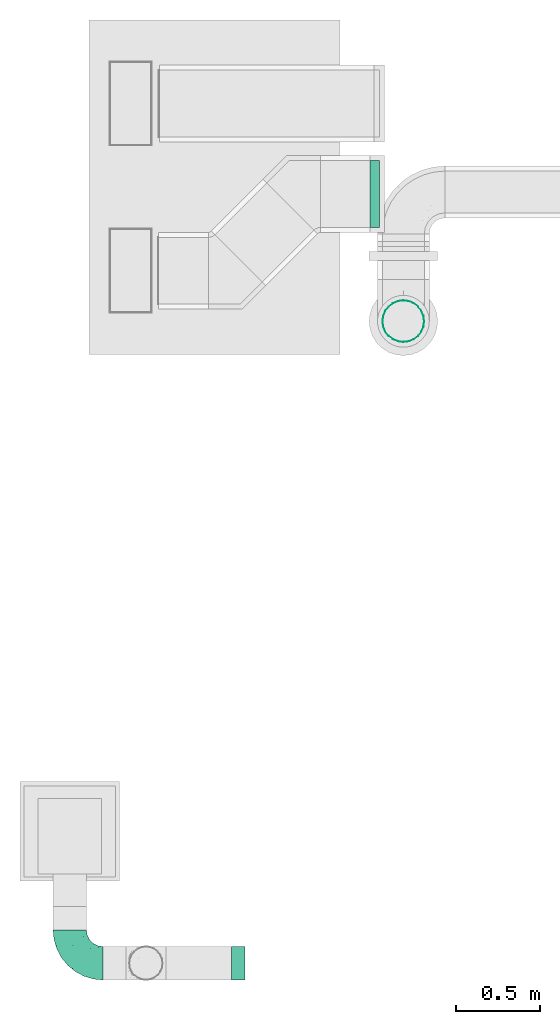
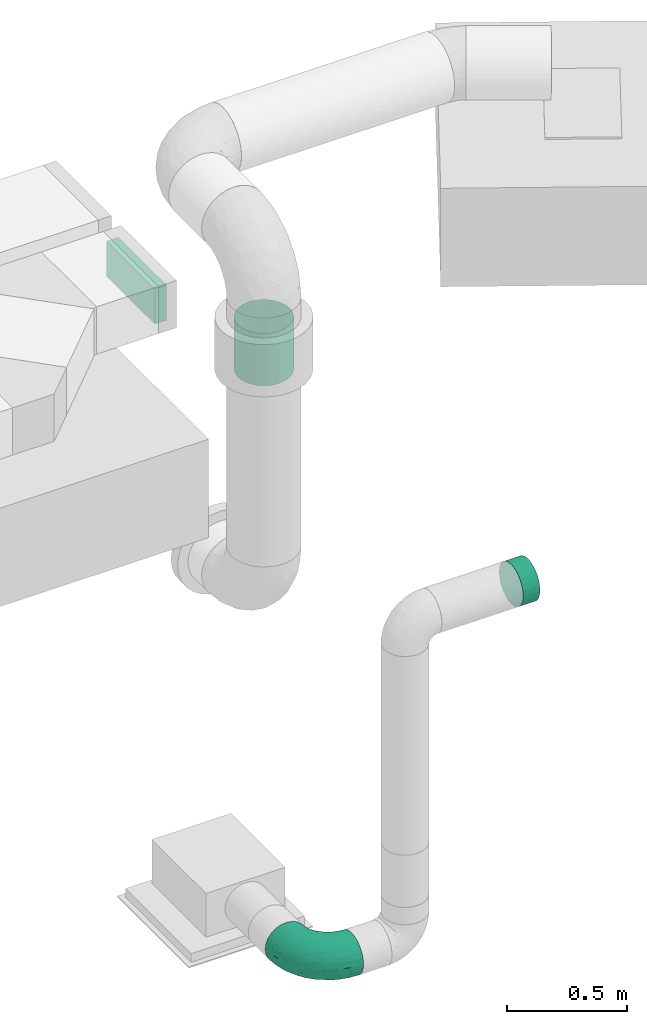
# One storey, part 7 of 9: 3 flow fittings, 1 flow controller.
"""IFC2X3 building model written with IfcOpenShell, lengths in millimetres."""

from ifc_helpers import new_model, entity, si_unit, converted_unit, derived_unit, direction, frame, origin_with_axes, place, context, subcontext, project, spatial, open_shell, surface_model, source, transform, mapped, type_object, element, save


model = new_model("IFC2X3")

# Units and contexts
model_context = context("Model", 3, precision=0.01, world=frame((0.0, 4.29681676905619e-09, 0.0)), true_north=direction((4.01073788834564e-13, 1.0)))
plan_context = context("Plan", 3, precision=0.01, world=frame((0.0, 4.29681676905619e-09, 0.0)), true_north=direction((4.01073788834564e-13, 1.0)))
body_context = subcontext(model_context, "Body", "Model", "MODEL_VIEW")
ifc_project = project(units=[converted_unit("PLANEANGLEUNIT", "DEGREE", entity("IfcPositiveLengthMeasure", 0.0174532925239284), si_unit("PLANEANGLEUNIT", "RADIAN"), dimensions=[0, 0, 0, 0, 0, 0, 0]), si_unit("AREAUNIT", "SQUARE_METRE"), si_unit("LENGTHUNIT", "METRE", prefix="MILLI"), si_unit("MASSUNIT", "GRAM", prefix="KILO"), si_unit("POWERUNIT", "WATT"), si_unit("PRESSUREUNIT", "PASCAL"), si_unit("FORCEUNIT", "NEWTON", prefix="KILO"), si_unit("ELECTRICVOLTAGEUNIT", "VOLT"), si_unit("ELECTRICCURRENTUNIT", "AMPERE"), si_unit("THERMODYNAMICTEMPERATUREUNIT", "DEGREE_CELSIUS"), si_unit("TIMEUNIT", "SECOND"), si_unit("VOLUMEUNIT", "CUBIC_METRE"), derived_unit("LINEARVELOCITYUNIT", [(si_unit("LENGTHUNIT", "METRE"), 1), (si_unit("TIMEUNIT", "SECOND"), -1)]), derived_unit("VOLUMETRICFLOWRATEUNIT", [(si_unit("VOLUMEUNIT", "CUBIC_METRE"), 1), (si_unit("TIMEUNIT", "SECOND"), -1)]), derived_unit("THERMALTRANSMITTANCEUNIT", [(si_unit("POWERUNIT", "WATT"), 1), (si_unit("THERMODYNAMICTEMPERATUREUNIT", "KELVIN"), -1), (si_unit("AREAUNIT", "SQUARE_METRE"), -1)]), derived_unit("SOUNDPRESSUREUNIT", [(si_unit("PRESSUREUNIT", "PASCAL"), 1)])], contexts=[model_context, plan_context])

# Site, building, storey
site_placement = place(None, frame((0.0, -4.29681676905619e-09, 0.0), z_axis=(0.0, 0.0, 1.0), x_axis=(1.0, 0.0, 0.0)))
site = spatial("IfcSite", under=ifc_project, at=site_placement, CompositionType="ELEMENT")
building_placement = place(site_placement, frame((0.0, 4.29681676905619e-09, 0.0), z_axis=(0.0, 0.0, 1.0), x_axis=(1.0, 0.0, 0.0)))
building = spatial("IfcBuilding", under=site, at=building_placement, Name="mc-building", CompositionType="ELEMENT")
storey_placement = place(building_placement, frame((0.0, 0.0, 210200.0), z_axis=(0.0, 0.0, 1.0), x_axis=(1.0, 0.0, 0.0)))
storey = spatial("IfcBuildingStorey", under=building, at=storey_placement, Name="Nivå F -0,7m", CompositionType="ELEMENT", Elevation=210200.0)

# Flow controller
damper_type = type_object("IfcDamperType", Name="IGNIS-C-EI30-250", PredefinedType="FIREDAMPER")
shared_shape_1 = source(origin_with_axes(), body_context, "Body", "SurfaceModel", [
    surface_model("IfcShellBasedSurfaceModel", [(132.5, 62.25, -107.82016), (132.5, 88.0348, -88.0348), (132.5, 62.15, -107.64695), (132.5, 32.17121, -120.06458), (132.5, 0.0, -124.3), (132.5, 32.22297, -120.25777), (132.5, 0.0, -124.5), (132.5, 87.89337, -87.89337), (132.5, 120.25777, -32.22297), (132.5, 124.3, 0.0), (132.5, 120.06458, -32.17121), (132.5, 124.5, 0.0), (132.5, 107.82016, -62.25), (132.5, 107.64695, -62.15), (132.5, -32.17121, -120.06458), (132.5, -32.22297, -120.25777), (132.5, -62.15, -107.64695), (132.5, -88.0348, -88.0348), (132.5, -62.25, -107.82016), (132.5, -87.89337, -87.89337), (132.5, -107.64695, -62.15), (132.5, -107.82016, -62.25), (132.5, -120.06458, -32.17121), (132.5, -120.25777, -32.22297), (132.5, -124.3, 0.0), (132.5, -124.5, 0.0), (132.5, 120.25777, 32.22297), (132.5, 120.06458, 32.17121), (132.5, 107.64695, 62.15), (132.5, 107.82016, 62.25), (132.5, 87.89337, 87.89337), (132.5, 88.0348, 88.0348), (132.5, 62.25, 107.82016), (132.5, 62.15, 107.64695), (132.5, 32.17121, 120.06458), (132.5, 32.22297, 120.25777), (132.5, 0.0, 124.3), (132.5, 0.0, 124.5), (132.5, -107.82016, 62.25), (132.5, -107.64695, 62.15), (132.5, -88.0348, 88.0348), (132.5, -87.89337, 87.89337), (132.5, -120.25777, 32.22297), (132.5, -120.06458, 32.17121), (132.5, -32.17121, 120.06458), (132.5, -32.22297, 120.25777), (132.5, -62.15, 107.64695), (132.5, -62.25, 107.82016), (-132.5, 62.25, 107.82016), (-132.5, 88.0348, 88.0348), (-132.5, 62.15, 107.64695), (-132.5, 32.17121, 120.06458), (-132.5, 0.0, 124.3), (-132.5, 32.22297, 120.25777), (-132.5, 0.0, 124.5), (-132.5, 87.89337, 87.89337), (-132.5, 120.25777, 32.22297), (-132.5, 124.3, 0.0), (-132.5, 120.06458, 32.17121), (-132.5, 124.5, 0.0), (-132.5, 107.82016, 62.25), (-132.5, 107.64695, 62.15), (-132.5, -32.17121, 120.06458), (-132.5, -32.22297, 120.25777), (-132.5, -62.15, 107.64695), (-132.5, -88.0348, 88.0348), (-132.5, -62.25, 107.82016), (-132.5, -87.89337, 87.89337), (-132.5, -107.64695, 62.15), (-132.5, -107.82016, 62.25), (-132.5, -120.06458, 32.17121), (-132.5, -120.25777, 32.22297), (-132.5, -124.3, 0.0), (-132.5, -124.5, 0.0), (-132.5, 120.25777, -32.22297), (-132.5, 120.06458, -32.17121), (-132.5, 107.64695, -62.15), (-132.5, 107.82016, -62.25), (-132.5, 87.89337, -87.89337), (-132.5, 88.0348, -88.0348), (-132.5, 62.25, -107.82016), (-132.5, 62.15, -107.64695), (-132.5, 32.17121, -120.06458), (-132.5, 32.22297, -120.25777), (-132.5, 0.0, -124.3), (-132.5, 0.0, -124.5), (-132.5, -107.82016, -62.25), (-132.5, -107.64695, -62.15), (-132.5, -88.0348, -88.0348), (-132.5, -87.89337, -87.89337), (-132.5, -120.25777, -32.22297), (-132.5, -120.06458, -32.17121), (-132.5, -32.17121, -120.06458), (-132.5, -32.22297, -120.25777), (-132.5, -62.15, -107.64695), (-132.5, -62.25, -107.82016)], [open_shell([[[0, 1, 2]], [[0, 2, 3]], [[4, 5, 3]], [[5, 4, 6]], [[3, 5, 0]], [[2, 1, 7]], [[8, 9, 10]], [[9, 8, 11]], [[8, 10, 12]], [[7, 12, 13]], [[12, 7, 1]], [[13, 12, 10]], [[6, 14, 15]], [[15, 14, 16]], [[17, 18, 19]], [[16, 18, 15]], [[16, 19, 18]], [[6, 4, 14]], [[20, 21, 17]], [[21, 20, 22]], [[20, 17, 19]], [[23, 22, 24]], [[22, 23, 21]], [[23, 24, 25]], [[11, 26, 27]], [[27, 26, 28]], [[28, 29, 30]], [[29, 28, 26]], [[30, 29, 31]], [[31, 32, 33]], [[33, 32, 34]], [[34, 35, 36]], [[35, 34, 32]], [[36, 35, 37]], [[33, 30, 31]], [[38, 39, 40]], [[40, 39, 41]], [[39, 38, 42]], [[25, 43, 42]], [[42, 43, 39]], [[25, 24, 43]], [[44, 37, 45]], [[44, 45, 46]], [[41, 47, 40]], [[41, 46, 47]], [[47, 46, 45]], [[36, 37, 44]], [[27, 9, 11]], [[48, 49, 50]], [[48, 50, 51]], [[52, 53, 51]], [[53, 52, 54]], [[51, 53, 48]], [[50, 49, 55]], [[56, 57, 58]], [[57, 56, 59]], [[56, 58, 60]], [[55, 60, 61]], [[60, 55, 49]], [[61, 60, 58]], [[54, 62, 63]], [[63, 62, 64]], [[65, 66, 67]], [[64, 66, 63]], [[64, 67, 66]], [[54, 52, 62]], [[68, 69, 65]], [[69, 68, 70]], [[68, 65, 67]], [[71, 70, 72]], [[70, 71, 69]], [[71, 72, 73]], [[59, 74, 75]], [[75, 74, 76]], [[76, 77, 78]], [[77, 76, 74]], [[78, 77, 79]], [[79, 80, 81]], [[81, 80, 82]], [[82, 83, 84]], [[83, 82, 80]], [[84, 83, 85]], [[81, 78, 79]], [[86, 87, 88]], [[88, 87, 89]], [[87, 86, 90]], [[73, 91, 90]], [[90, 91, 87]], [[73, 72, 91]], [[92, 85, 93]], [[92, 93, 94]], [[89, 95, 88]], [[89, 94, 95]], [[95, 94, 93]], [[84, 85, 92]], [[75, 57, 59]], [[23, 90, 86]], [[88, 21, 86]], [[18, 95, 93]], [[88, 95, 17]], [[15, 93, 85]], [[90, 25, 73]], [[90, 23, 25]], [[86, 21, 23]], [[88, 17, 21]], [[18, 17, 95]], [[93, 15, 18]], [[85, 6, 15]], [[5, 83, 80]], [[79, 0, 80]], [[12, 77, 74]], [[79, 77, 1]], [[8, 74, 59]], [[83, 5, 6]], [[80, 0, 5]], [[79, 1, 0]], [[77, 12, 1]], [[8, 12, 74]], [[59, 11, 8]], [[83, 6, 85]], [[59, 56, 26]], [[53, 32, 48]], [[48, 31, 49]], [[35, 53, 54]], [[59, 26, 11]], [[26, 56, 60]], [[26, 60, 29]], [[60, 49, 29]], [[49, 31, 29]], [[32, 31, 48]], [[53, 35, 32]], [[54, 37, 35]], [[45, 63, 66]], [[65, 47, 66]], [[38, 69, 71]], [[65, 69, 40]], [[42, 71, 73]], [[63, 45, 37]], [[66, 47, 45]], [[65, 40, 47]], [[69, 38, 40]], [[42, 38, 71]], [[73, 25, 42]], [[63, 37, 54]], [[87, 91, 22]], [[87, 20, 89]], [[92, 94, 16]], [[19, 94, 89]], [[84, 92, 14]], [[72, 24, 91]], [[24, 22, 91]], [[22, 20, 87]], [[20, 19, 89]], [[94, 19, 16]], [[16, 14, 92]], [[14, 4, 84]], [[81, 82, 3]], [[81, 2, 78]], [[75, 76, 13]], [[7, 76, 78]], [[57, 75, 10]], [[4, 3, 82]], [[3, 2, 81]], [[2, 7, 78]], [[7, 13, 76]], [[75, 13, 10]], [[10, 9, 57]], [[84, 4, 82]], [[27, 58, 57]], [[50, 33, 51]], [[55, 30, 50]], [[52, 51, 34]], [[9, 27, 57]], [[61, 58, 27]], [[28, 61, 27]], [[28, 55, 61]], [[28, 30, 55]], [[50, 30, 33]], [[33, 34, 51]], [[34, 36, 52]], [[64, 62, 44]], [[64, 46, 67]], [[70, 68, 39]], [[41, 68, 67]], [[72, 70, 43]], [[36, 44, 62]], [[44, 46, 64]], [[46, 41, 67]], [[41, 39, 68]], [[70, 39, 43]], [[43, 24, 72]], [[52, 36, 62]]])]),
])
flow_controller_placement = place(storey_placement, frame((524180.93348, 455661.93875, 3436.87533000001), z_axis=(0.0, 1.0, 0.0), x_axis=(0.0, 0.0, -1.0)))
element("IfcFlowController", 1, at=flow_controller_placement, inside=storey, type_object=damper_type, Name="IGNIS-C-EI30-250", context=body_context, shape_type="MappedRepresentation", body=[
    mapped(shared_shape_1, transform((0.0, 0.0, 0.0), scale=1.0)),
])

# Flow fittings
duct_fitting_type_1 = type_object("IfcDuctFittingType", Name="magicirc_elbow_full_radius_001", PredefinedType="BEND")
shared_shape_2 = source(origin_with_axes(), body_context, "Body", "SurfaceModel", [
    surface_model("IfcShellBasedSurfaceModel", [(-200.0, 25.8819, -96.59259), (-200.0, 0.0, -100.0), (-200.0, 96.59259, -25.8819), (-200.0, 50.0, -86.60254), (-200.0, 70.71068, -70.71068), (-200.0, 86.60254, -50.0), (-200.0, 100.0, 0.0), (-200.0, -70.71068, -70.71068), (-200.0, -50.0, -86.60254), (-200.0, -25.8819, -96.59259), (-200.0, -86.60254, -50.0), (-200.0, -96.59259, -25.8819), (-200.0, -96.59259, 25.8819), (-200.0, -100.0, 0.0), (-200.0, 86.60254, 50.0), (-200.0, 96.59259, 25.8819), (-200.0, -50.0, 86.60254), (-200.0, 25.8819, 96.59259), (-200.0, 50.0, 86.60254), (-200.0, 70.71068, 70.71068), (-200.0, -86.60254, 50.0), (-200.0, -70.71068, 70.71068), (-200.0, -25.8819, 96.59259), (-200.0, 0.0, 100.0), (-25.8819, 200.0, -96.59259), (96.59259, 200.0, 25.8819), (0.0, 200.0, -100.0), (-70.71068, 200.0, -70.71068), (-50.0, 200.0, -86.60254), (-86.60254, 200.0, -50.0), (70.71068, 200.0, -70.71068), (25.8819, 200.0, -96.59259), (50.0, 200.0, -86.60254), (96.59259, 200.0, -25.8819), (86.60254, 200.0, -50.0), (100.0, 200.0, 0.0), (-96.59259, 200.0, -25.8819), (-100.0, 200.0, 0.0), (-96.59259, 200.0, 25.8819), (-86.60254, 200.0, 50.0), (-50.0, 200.0, 86.60254), (-25.8819, 200.0, 96.59259), (-70.71068, 200.0, 70.71068), (50.0, 200.0, 86.60254), (70.71068, 200.0, 70.71068), (86.60254, 200.0, 50.0), (25.8819, 200.0, 96.59259), (0.0, 200.0, 100.0), (-170.28345, -80.453, 57.20341), (-151.30505, -62.14272, 74.57098), (-141.47291, -94.23558, 0.0), (-152.48501, -91.13434, 31.26682), (-175.16033, -97.5535, 0.0), (49.44088, 33.32893, 0.0), (56.65771, 47.69157, 17.5513), (30.78646, 10.59845, 0.0), (-115.72747, -62.79147, 65.02361), (-110.24866, -47.46346, 77.46704), (-131.78251, -77.03572, 52.17296), (-155.84565, 81.73243, 67.52503), (-165.38682, 59.81194, 83.11685), (-153.53621, -15.46231, 97.89391), (-99.34826, -9.37473, 94.63603), (-109.04028, 19.17637, 99.9709), (-11.41001, 147.58509, 99.90915), (-66.65717, -62.98288, 31.65851), (-19.65477, -37.28433, 19.69829), (-42.80044, -46.52394, 38.2888), (-76.76667, -58.58513, 50.26593), (-107.75087, -80.71677, 29.70656), (-170.73585, -40.65955, 90.5511), (-172.81551, 101.70087, 19.84455), (-146.92494, 108.70969, 32.98808), (-141.22148, 119.0983, 0.0), (-63.14521, 144.11081, 85.31109), (-80.51529, 161.84448, 66.62709), (-89.41257, 123.59035, 75.49114), (-59.28706, 175.69502, 82.02298), (-159.40173, 10.55746, 99.80411), (77.16386, 85.19497, 0.0), (62.56216, 67.38452, 33.69402), (-101.70087, 172.81551, 19.84455), (-93.96462, 171.01, 43.43771), (-171.01, 93.96462, 43.43771), (-151.20277, 37.27353, 95.35782), (-100.76094, 141.8163, 52.73949), (-123.065, 123.065, 41.02461), (-115.71118, 115.71117, 58.92154), (-108.70969, 146.92494, 32.98808), (-169.09831, 104.89435, 0.0), (-126.3807, 68.32629, 87.09158), (-3.53309, 67.51081, 92.91692), (-29.40722, 29.40721, 91.09367), (0.78973, 37.96478, 81.45071), (-60.00062, -0.36077, 89.58959), (-67.88209, 21.58789, 97.54896), (62.32031, 154.13138, 74.86163), (-141.8163, 100.76094, 52.73949), (91.13434, 152.48501, 31.26682), (80.453, 170.28345, 57.20341), (-18.49849, -12.30744, 60.90175), (8.80323, 19.6267, 65.08263), (-25.42255, 3.46809, 77.76258), (-74.03921, 114.7783, 87.77152), (-87.24231, 87.48345, 91.33971), (-52.29396, 97.96814, 97.88047), (97.5535, 175.16033, 0.0), (15.66986, 158.34417, 98.04921), (39.67143, 143.40046, 88.65468), (-104.89435, 169.09831, 0.0), (-119.0983, 141.22148, 0.0), (-79.31604, 55.69606, 99.29154), (50.31225, 117.34231, 77.16335), (77.03572, 131.78251, 52.17296), (-113.91527, 94.9934, 76.65605), (64.93177, 92.97178, 51.47516), (47.72556, 81.69016, 66.67609), (40.01044, 43.97718, 50.57869), (-17.45546, -26.87288, 41.03287), (-127.86769, 127.86769, 19.95139), (-59.26195, -63.30237, 0.0), (-33.32893, -49.44088, 0.0), (-15.13235, 108.44666, 99.8016), (9.03102, 110.97634, 96.23014), (-35.35458, 66.6809, 99.29493), (-36.40308, 160.4143, 94.8486), (-32.26105, 126.83648, 98.54453), (5.63455, -13.55537, 26.35365), (8.74012, 0.17058, 45.65263), (46.65777, 40.2329, 34.44568), (80.66195, 107.48302, 29.60457), (85.69972, 113.33393, 0.0), (28.17336, 90.6004, 84.77214), (-103.20436, 61.65595, 95.02282), (-132.43349, -38.40548, 87.83865), (-113.33393, -85.69972, 0.0), (-87.1495, -28.94235, 83.35483), (-47.7214, -39.47514, 54.58142), (-52.3084, 125.73797, 93.79051), (25.86889, 52.68176, 71.74074), (63.30237, 59.26195, 0.0), (94.23558, 141.47291, 0.0), (29.54521, 14.24018, 30.32032), (-85.19497, -77.16386, 0.0), (-50.98503, -24.63183, 71.83876), (-81.69017, -47.72556, 66.67609), (-10.59845, -30.78646, 0.0), (12.13203, -12.13203, 0.0), (-160.4143, 36.40307, -94.8486), (-126.83648, 32.26105, -98.54453), (-147.58509, 11.41001, -99.90915), (-59.81194, 165.3868, -83.11686), (-158.34417, -15.66986, -98.0492), (-110.97634, -9.03102, -96.23014), (12.30745, 18.4985, -60.90175), (-19.62669, -8.80321, -65.08265), (-3.46809, 25.42255, -77.76258), (-114.7783, 74.03921, -87.77153), (-87.48346, 87.2423, -91.33971), (-97.96814, 52.29396, -97.88047), (-172.81551, 101.70087, -19.84455), (13.55537, -5.63454, -26.35364), (-0.17055, -8.74011, -45.6526), (26.87289, 17.45547, -41.03286), (-146.92494, 108.70969, -32.98808), (-47.69157, -56.65771, -17.5513), (-123.06501, 123.065, -41.02461), (-127.86769, 127.86769, -19.95139), (-108.70969, 146.92494, -32.98808), (-175.69502, 59.28706, -82.02298), (-161.84448, 80.51529, -66.62709), (-144.11081, 63.14521, -85.31109), (62.98288, 66.65718, -31.65851), (-81.73243, 155.84565, -67.52503), (-141.8163, 100.76093, -52.73949), (-171.01, 93.96462, -43.43771), (-55.69606, 79.31604, -99.29154), (-66.68089, 35.35458, -99.29493), (-152.48501, -91.13434, -31.26682), (-170.28345, -80.45301, -57.20341), (-92.97178, -64.93177, -51.47516), (-81.69017, -47.72556, -66.67608), (-43.97716, -40.01043, -50.57869), (-10.55746, 159.40173, -99.80411), (15.46231, 153.53621, -97.89391), (-154.13138, -62.32031, -74.86163), (-143.40046, -39.67143, -88.65468), (-37.27353, 151.20276, -95.35782), (-107.48302, -80.66195, -29.60457), (0.36078, 60.00061, -89.58959), (-29.40721, 29.40721, -91.09366), (-21.58789, 67.88208, -97.54896), (-100.76094, 141.8163, -52.73949), (-93.96462, 171.01, -43.43771), (-101.70087, 172.81551, -19.84455), (-19.17637, 109.04027, -99.9709), (-123.59035, 89.41257, -75.49114), (62.14272, 151.30505, -74.57098), (40.65955, 170.73585, -90.5511), (46.52395, 42.80044, -38.28881), (37.28435, 19.6548, -19.69829), (-68.3263, 126.38069, -87.09158), (-67.51081, 3.53309, -92.91692), (-37.96476, -0.78971, -81.45071), (58.58512, 76.76664, -50.26592), (-67.38452, -62.56216, -33.69402), (80.45301, 170.28345, -57.20341), (80.71677, 107.75087, -29.70656), (38.40548, 132.43348, -87.83865), (62.79147, 115.72747, -65.02361), (47.46347, 110.24866, -77.46703), (91.13434, 152.48501, -31.26682), (-40.2329, -46.65777, -34.44568), (-90.60041, -28.17337, -84.77214), (77.03572, 131.78251, -52.17296), (9.37473, 99.34825, -94.63603), (-117.34231, -50.31225, -77.16335), (-131.78251, -77.03572, -52.17296), (-94.99341, 113.91526, -76.65605), (-108.44666, 15.13234, -99.8016), (-61.65596, 103.20434, -95.02282), (28.94235, 87.1495, -83.35483), (39.47513, 47.72139, -54.58143), (-125.73797, 52.30839, -93.79051), (-52.68177, -25.86889, -71.74075), (-115.71118, 115.71117, -58.92154), (-14.24018, -29.54521, -30.32033), (24.63182, 50.98504, -71.83876), (47.72556, 81.69017, -66.67609)], [open_shell([[[0, 1, 2]], [[3, 0, 4]], [[2, 5, 4]], [[0, 2, 4]], [[6, 1, 7]], [[8, 7, 9]], [[7, 1, 9]], [[10, 11, 7]], [[12, 11, 13]], [[12, 7, 11]], [[2, 1, 6]], [[14, 15, 6]], [[16, 14, 7]], [[14, 17, 18]], [[19, 14, 18]], [[17, 14, 16]], [[20, 21, 12]], [[16, 12, 21]], [[16, 22, 17]], [[16, 7, 12]], [[17, 22, 23]], [[14, 6, 7]], [[24, 25, 26]], [[27, 24, 28]], [[25, 27, 29]], [[24, 27, 25]], [[30, 26, 25]], [[31, 30, 32]], [[31, 26, 30]], [[30, 33, 34]], [[35, 33, 25]], [[33, 30, 25]], [[25, 29, 36]], [[37, 38, 39]], [[25, 37, 39]], [[40, 41, 39]], [[40, 39, 42]], [[43, 39, 41]], [[25, 44, 45]], [[44, 25, 43]], [[41, 46, 43]], [[43, 25, 39]], [[47, 46, 41]], [[37, 25, 36]], [[21, 48, 49]], [[50, 51, 52]], [[53, 54, 55]], [[56, 57, 49]], [[48, 51, 58]], [[59, 19, 60]], [[61, 62, 63]], [[47, 41, 64]], [[65, 66, 67]], [[68, 69, 65]], [[16, 21, 49]], [[19, 18, 60]], [[16, 70, 22]], [[71, 72, 73]], [[74, 75, 76]], [[77, 40, 42]], [[19, 59, 14]], [[23, 78, 17]], [[54, 79, 80]], [[38, 81, 82]], [[70, 61, 22]], [[21, 20, 48]], [[83, 15, 14]], [[83, 72, 71]], [[84, 18, 17]], [[6, 15, 71]], [[85, 86, 87]], [[85, 82, 88]], [[71, 73, 89]], [[22, 61, 23]], [[90, 60, 84]], [[91, 92, 93]], [[65, 67, 68]], [[94, 92, 95]], [[43, 96, 44]], [[97, 72, 83]], [[25, 45, 98]], [[44, 99, 45]], [[75, 42, 39]], [[100, 101, 102]], [[103, 104, 105]], [[98, 106, 25]], [[46, 107, 108]], [[108, 96, 43]], [[109, 110, 81]], [[104, 111, 105]], [[112, 113, 96]], [[98, 45, 99]], [[114, 59, 90]], [[108, 43, 46]], [[115, 116, 117]], [[88, 81, 110]], [[67, 66, 118]], [[110, 73, 119]], [[109, 81, 37]], [[95, 111, 63]], [[120, 121, 65]], [[86, 119, 72]], [[122, 123, 64]], [[111, 124, 105]], [[75, 74, 77]], [[64, 125, 126]], [[127, 128, 118]], [[80, 129, 54]], [[41, 40, 125]], [[125, 64, 41]], [[123, 107, 64]], [[98, 130, 131]], [[132, 108, 123]], [[47, 107, 46]], [[78, 23, 61]], [[20, 12, 51]], [[133, 63, 111]], [[130, 98, 113]], [[115, 117, 80]], [[82, 39, 38]], [[75, 85, 76]], [[62, 61, 134]], [[78, 63, 84]], [[56, 49, 58]], [[70, 49, 134]], [[51, 12, 52]], [[51, 135, 69]], [[115, 130, 113]], [[82, 81, 88]], [[62, 136, 94]], [[62, 94, 95]], [[67, 118, 137]], [[69, 58, 51]], [[77, 125, 40]], [[126, 138, 105]], [[112, 96, 108]], [[99, 96, 113]], [[117, 116, 139]], [[66, 127, 118]], [[92, 102, 93]], [[92, 94, 102]], [[63, 78, 61]], [[84, 17, 78]], [[64, 107, 47]], [[108, 107, 123]], [[84, 60, 18]], [[59, 60, 90]], [[87, 114, 76]], [[104, 103, 114]], [[114, 87, 97]], [[104, 114, 90]], [[63, 133, 84]], [[138, 103, 105]], [[90, 133, 104]], [[63, 62, 95]], [[91, 124, 92]], [[122, 64, 126]], [[92, 124, 95]], [[111, 95, 124]], [[140, 79, 54]], [[131, 141, 98]], [[88, 86, 85]], [[75, 39, 82]], [[76, 85, 87]], [[75, 82, 85]], [[14, 59, 83]], [[97, 87, 86]], [[83, 59, 97]], [[114, 97, 59]], [[117, 142, 129]], [[65, 69, 143]], [[136, 62, 134]], [[102, 101, 93]], [[144, 94, 136]], [[137, 100, 144]], [[57, 136, 134]], [[136, 145, 144]], [[101, 139, 93]], [[91, 132, 123]], [[93, 139, 132]], [[91, 123, 122]], [[93, 132, 91]], [[132, 116, 112]], [[144, 100, 102]], [[128, 100, 118]], [[144, 102, 94]], [[137, 144, 145]], [[137, 145, 68]], [[100, 137, 118]], [[56, 68, 145]], [[69, 68, 58]], [[101, 128, 117]], [[132, 139, 116]], [[101, 117, 139]], [[129, 80, 117]], [[68, 67, 137]], [[65, 143, 120]], [[127, 146, 147]], [[55, 127, 147]], [[66, 146, 127]], [[128, 127, 142]], [[117, 128, 142]], [[100, 128, 101]], [[138, 125, 74]], [[122, 105, 124]], [[105, 122, 126]], [[91, 122, 124]], [[125, 138, 126]], [[138, 74, 103]], [[74, 76, 103]], [[114, 103, 76]], [[132, 112, 108]], [[112, 116, 115]], [[12, 13, 52]], [[106, 98, 141]], [[106, 35, 25]], [[37, 81, 38]], [[88, 110, 119]], [[97, 86, 72]], [[72, 119, 73]], [[88, 119, 86]], [[6, 71, 89]], [[83, 71, 15]], [[75, 77, 42]], [[125, 77, 74]], [[49, 70, 16]], [[61, 70, 134]], [[51, 48, 20]], [[49, 48, 58]], [[96, 99, 44]], [[98, 99, 113]], [[80, 79, 130]], [[130, 115, 80]], [[112, 115, 113]], [[68, 56, 58]], [[57, 56, 145]], [[136, 57, 145]], [[49, 57, 134]], [[65, 121, 66]], [[127, 55, 142]], [[84, 133, 90]], [[111, 104, 133]], [[130, 79, 131]], [[135, 51, 50]], [[135, 143, 69]], [[142, 55, 54]], [[142, 54, 129]], [[140, 54, 53]], [[66, 121, 146]], [[148, 149, 150]], [[28, 151, 27]], [[152, 150, 153]], [[154, 155, 156]], [[150, 0, 148]], [[157, 158, 159]], [[89, 160, 6]], [[161, 162, 163]], [[164, 160, 73]], [[121, 165, 146]], [[166, 167, 168]], [[169, 170, 171]], [[140, 53, 172]], [[27, 173, 29]], [[174, 175, 164]], [[176, 177, 159]], [[178, 10, 179]], [[180, 181, 182]], [[178, 52, 11]], [[183, 26, 184]], [[185, 8, 186]], [[0, 3, 148]], [[9, 186, 8]], [[187, 28, 24]], [[31, 184, 26]], [[178, 11, 10]], [[179, 10, 7]], [[178, 188, 135]], [[7, 8, 185]], [[152, 186, 9]], [[189, 190, 191]], [[158, 176, 159]], [[167, 73, 110]], [[192, 168, 193]], [[166, 168, 192]], [[193, 36, 29]], [[36, 194, 37]], [[191, 176, 195]], [[171, 170, 196]], [[194, 193, 168]], [[160, 175, 2]], [[197, 32, 30]], [[198, 184, 31]], [[173, 27, 151]], [[169, 3, 4]], [[26, 183, 24]], [[199, 200, 163]], [[187, 201, 151]], [[202, 190, 203]], [[31, 32, 198]], [[199, 172, 200]], [[172, 199, 204]], [[165, 143, 205]], [[30, 34, 206]], [[207, 172, 204]], [[89, 73, 160]], [[198, 197, 208]], [[9, 1, 152]], [[209, 210, 197]], [[170, 4, 5]], [[211, 106, 141]], [[205, 212, 165]], [[213, 186, 153]], [[211, 214, 206]], [[34, 33, 211]], [[215, 195, 184]], [[194, 168, 110]], [[1, 0, 150]], [[216, 217, 185]], [[194, 110, 109]], [[218, 173, 201]], [[219, 153, 150]], [[220, 195, 176]], [[188, 178, 217]], [[180, 182, 205]], [[175, 5, 2]], [[170, 174, 196]], [[206, 197, 30]], [[209, 197, 214]], [[215, 184, 208]], [[183, 195, 187]], [[211, 33, 106]], [[211, 131, 207]], [[180, 188, 217]], [[33, 35, 106]], [[215, 221, 189]], [[215, 189, 191]], [[199, 163, 222]], [[207, 214, 211]], [[169, 148, 3]], [[149, 223, 159]], [[216, 185, 186]], [[179, 185, 217]], [[182, 181, 224]], [[200, 161, 163]], [[190, 156, 203]], [[190, 189, 156]], [[195, 183, 184]], [[187, 24, 183]], [[150, 152, 1]], [[186, 152, 153]], [[187, 151, 28]], [[173, 151, 201]], [[225, 218, 196]], [[158, 157, 218]], [[218, 225, 192]], [[158, 218, 201]], [[195, 220, 187]], [[223, 157, 159]], [[201, 220, 158]], [[195, 215, 191]], [[202, 177, 190]], [[219, 150, 149]], [[190, 177, 191]], [[176, 191, 177]], [[120, 143, 165]], [[135, 50, 178]], [[164, 166, 174]], [[170, 5, 175]], [[196, 174, 225]], [[170, 175, 174]], [[29, 173, 193]], [[192, 225, 166]], [[193, 173, 192]], [[218, 192, 173]], [[182, 226, 212]], [[172, 207, 79]], [[221, 215, 208]], [[156, 155, 203]], [[227, 189, 221]], [[222, 154, 227]], [[210, 221, 208]], [[221, 228, 227]], [[155, 224, 203]], [[202, 213, 153]], [[203, 224, 213]], [[202, 153, 219]], [[203, 213, 202]], [[213, 181, 216]], [[227, 154, 156]], [[162, 154, 163]], [[227, 156, 189]], [[222, 227, 228]], [[222, 228, 204]], [[154, 222, 163]], [[209, 204, 228]], [[207, 204, 214]], [[155, 162, 182]], [[213, 224, 181]], [[155, 182, 224]], [[212, 205, 182]], [[204, 199, 222]], [[172, 79, 140]], [[161, 55, 147]], [[146, 161, 147]], [[200, 55, 161]], [[162, 161, 226]], [[182, 162, 226]], [[154, 162, 155]], [[223, 148, 171]], [[219, 159, 177]], [[159, 219, 149]], [[202, 219, 177]], [[148, 223, 149]], [[223, 171, 157]], [[171, 196, 157]], [[218, 157, 196]], [[213, 216, 186]], [[216, 181, 180]], [[52, 178, 50]], [[52, 13, 11]], [[175, 160, 164]], [[6, 160, 2]], [[174, 166, 225]], [[167, 164, 73]], [[168, 167, 110]], [[164, 167, 166]], [[37, 194, 109]], [[193, 194, 36]], [[170, 169, 4]], [[148, 169, 171]], [[197, 198, 32]], [[184, 198, 208]], [[211, 206, 34]], [[197, 206, 214]], [[185, 179, 7]], [[178, 179, 217]], [[205, 143, 188]], [[188, 180, 205]], [[216, 180, 217]], [[204, 209, 214]], [[210, 209, 228]], [[221, 210, 228]], [[197, 210, 208]], [[172, 53, 200]], [[161, 146, 226]], [[187, 220, 201]], [[176, 158, 220]], [[188, 143, 135]], [[131, 211, 141]], [[131, 79, 207]], [[226, 146, 165]], [[226, 165, 212]], [[120, 165, 121]], [[200, 53, 55]]])]),
])
flow_fitting_1_placement = place(storey_placement, frame((522185.29437, 451822.14993, 3298.0), z_axis=(0.0, 0.0, 1.0), x_axis=(0.0, -1.0, 0.0)))
element("IfcFlowFitting", 2, at=flow_fitting_1_placement, inside=storey, type_object=duct_fitting_type_1, Name="magicirc_elbow_full_radius_001", context=body_context, shape_type="MappedRepresentation", body=[
    mapped(shared_shape_2, transform((0.0, 0.0, 0.0), scale=1.0)),
])
duct_fitting_type_2 = type_object("IfcDuctFittingType", Name="magicirc_tapoutlet_001", PredefinedType="CONNECTOR")
shared_shape_3 = source(origin_with_axes(), body_context, "Body", "SurfaceModel", [
    surface_model("IfcShellBasedSurfaceModel", [(25.0, -86.60254, -50.0), (25.0, -70.71068, -70.71068), (25.0, -96.59259, 25.8819), (25.0, 70.71068, -70.71068), (25.0, 100.0, 0.0), (25.0, 50.0, -86.60254), (25.0, 86.60254, -50.0), (25.0, -100.0, 0.0), (25.0, -96.59259, -25.8819), (25.0, 25.8819, -96.59259), (25.0, 0.0, -100.0), (25.0, -50.0, -86.60254), (25.0, 96.59259, -25.8819), (25.0, 96.59259, 25.8819), (25.0, 86.60254, 50.0), (25.0, 70.71068, 70.71068), (25.0, 50.0, 86.60254), (25.0, -70.71068, 70.71068), (25.0, -86.60254, 50.0), (25.0, -25.8819, 96.59259), (25.0, -50.0, 86.60254), (0.0, 0.0, 100.0), (25.0, 0.0, 100.0), (25.0, 25.8819, 96.59259), (0.0, 25.8819, 96.59259), (0.0, 50.0, 86.60254), (0.0, 70.71068, 70.71068), (0.0, 86.60254, 50.0), (0.0, 96.59259, 25.8819), (0.0, 100.0, 0.0), (0.0, 96.59259, -25.8819), (0.0, 86.60254, -50.0), (0.0, 70.71068, -70.71068), (0.0, 25.8819, -96.59259), (0.0, 50.0, -86.60254), (0.0, 0.0, -100.0), (25.0, -25.8819, -96.59259), (0.0, -25.8819, -96.59259), (0.0, -50.0, -86.60254), (0.0, -70.71068, -70.71068), (0.0, -86.60254, -50.0), (0.0, -96.59259, -25.8819), (0.0, -100.0, 0.0), (0.0, -96.59259, 25.8819), (0.0, -86.60254, 50.0), (0.0, -70.71068, 70.71068), (0.0, -50.0, 86.60254), (0.0, -25.8819, 96.59259), (-56.09601, 0.0, -100.0), (-56.09601, -25.8819, -96.59259), (-56.09601, 25.8819, -96.59259), (-56.09601, 96.59259, 25.8819), (-56.09601, 50.0, -86.60254), (-56.09601, 70.71068, -70.71068), (-56.09601, 86.60254, -50.0), (-56.09601, -100.0, 0.0), (-56.09601, -96.59259, 25.8819), (-56.09601, -70.71068, -70.71068), (-56.09601, -50.0, -86.60254), (-56.09601, -96.59259, -25.8819), (-56.09601, -86.60254, -50.0), (-56.09601, 96.59259, -25.8819), (-56.09601, 86.60254, 50.0), (-56.09601, 70.71068, 70.71068), (-56.09601, 25.8819, 96.59259), (-56.09601, 50.0, 86.60254), (-56.09601, 0.0, 100.0), (-56.09601, -70.71068, 70.71068), (-56.09601, -50.0, 86.60254), (-56.09601, -86.60254, 50.0), (-56.09601, -25.8819, 96.59259), (-56.09601, 100.0, 0.0)], [open_shell([[[0, 1, 2]], [[3, 4, 5]], [[3, 6, 4]], [[7, 8, 2]], [[9, 4, 10]], [[5, 4, 9]], [[1, 10, 2]], [[10, 1, 11]], [[0, 2, 8]], [[4, 6, 12]], [[13, 14, 10]], [[14, 15, 10]], [[10, 15, 16]], [[10, 17, 18]], [[2, 10, 18]], [[19, 20, 10]], [[21, 22, 23]], [[24, 23, 16]], [[21, 23, 24]], [[25, 15, 26]], [[25, 24, 16]], [[15, 25, 16]], [[27, 14, 13]], [[28, 13, 4]], [[26, 14, 27]], [[28, 27, 13]], [[29, 28, 4]], [[14, 26, 15]], [[29, 4, 12]], [[30, 12, 6]], [[29, 12, 30]], [[31, 3, 32]], [[31, 30, 6]], [[3, 31, 6]], [[9, 10, 33]], [[5, 9, 34]], [[32, 5, 34]], [[35, 33, 10]], [[9, 33, 34]], [[5, 32, 3]], [[35, 10, 36]], [[37, 36, 11]], [[35, 36, 37]], [[38, 1, 39]], [[38, 37, 11]], [[1, 38, 11]], [[40, 0, 8]], [[41, 8, 7]], [[39, 0, 40]], [[41, 40, 8]], [[42, 41, 7]], [[0, 39, 1]], [[42, 7, 2]], [[43, 2, 18]], [[42, 2, 43]], [[44, 17, 45]], [[44, 43, 18]], [[17, 44, 18]], [[46, 20, 19]], [[47, 19, 22]], [[45, 20, 46]], [[47, 46, 19]], [[21, 47, 22]], [[20, 45, 17]], [[19, 10, 23]], [[11, 36, 10]], [[16, 23, 10]], [[20, 17, 10]], [[22, 19, 23]], [[4, 13, 10]], [[1, 2, 0]], [[15, 10, 14]], [[10, 4, 13]], [[48, 49, 50]], [[50, 51, 52]], [[53, 51, 54]], [[52, 51, 53]], [[50, 55, 56]], [[57, 55, 58]], [[50, 49, 58]], [[59, 55, 60]], [[57, 60, 55]], [[58, 55, 50]], [[61, 54, 51]], [[62, 51, 50]], [[50, 63, 62]], [[64, 65, 63]], [[63, 50, 64]], [[66, 64, 50]], [[67, 68, 69]], [[69, 50, 56]], [[70, 66, 68]], [[50, 69, 68]], [[66, 50, 68]], [[71, 61, 51]], [[66, 21, 24]], [[64, 24, 25]], [[66, 24, 64]], [[65, 26, 63]], [[65, 64, 25]], [[26, 65, 25]], [[28, 29, 71]], [[27, 28, 51]], [[63, 27, 62]], [[71, 51, 28]], [[27, 51, 62]], [[27, 63, 26]], [[71, 29, 30]], [[61, 30, 31]], [[71, 30, 61]], [[54, 32, 53]], [[54, 61, 31]], [[32, 54, 31]], [[50, 34, 33]], [[48, 33, 35]], [[53, 34, 52]], [[50, 52, 34]], [[48, 50, 33]], [[34, 53, 32]], [[48, 35, 37]], [[49, 37, 38]], [[48, 37, 49]], [[58, 39, 57]], [[58, 49, 38]], [[39, 58, 38]], [[59, 40, 41]], [[55, 41, 42]], [[57, 39, 60]], [[59, 60, 40]], [[41, 55, 59]], [[60, 39, 40]], [[55, 42, 43]], [[56, 43, 44]], [[55, 43, 56]], [[69, 45, 67]], [[69, 56, 44]], [[45, 69, 44]], [[47, 21, 66]], [[46, 47, 68]], [[68, 67, 46]], [[70, 68, 47]], [[47, 66, 70]], [[46, 67, 45]], [[50, 62, 51]], [[62, 50, 63]], [[64, 50, 66]], [[69, 67, 50]], [[68, 50, 67]]])]),
])
flow_fitting_2_placement = place(storey_placement, frame((523176.60694, 451822.14993, 4900.0), z_axis=(0.0, 0.0, -1.0), x_axis=(-1.0, 0.0, 0.0)))
element("IfcFlowFitting", 3, at=flow_fitting_2_placement, inside=storey, type_object=duct_fitting_type_2, Name="magicirc_tapoutlet_001", context=body_context, shape_type="MappedRepresentation", body=[
    mapped(shared_shape_3, transform((0.0, 0.0, 0.0), scale=1.0)),
])
duct_fitting_type_3 = type_object("IfcDuctFittingType", Name="magirect_outlet1_001 2", PredefinedType="CONNECTOR")
shared_shape_4 = source(origin_with_axes(), body_context, "Body", "SurfaceModel", [
    surface_model("IfcShellBasedSurfaceModel", [(-6.096, 200.0, 90.0), (-6.096, 200.0, -90.0), (-6.096, -200.0, -90.0), (-6.096, -200.0, 90.0), (50.0, 200.0, -90.0), (50.0, 200.0, 90.0), (50.0, -200.0, -90.0), (50.0, -200.0, 90.0)], [open_shell([[[0, 1, 2]], [[2, 3, 0]], [[1, 0, 4]], [[5, 4, 0]], [[2, 1, 6]], [[4, 6, 1]], [[3, 2, 6]], [[6, 7, 3]], [[0, 3, 7]], [[7, 5, 0]], [[4, 5, 6]], [[7, 6, 5]], [[4, 5, 7]], [[7, 6, 4]]])]),
])
flow_fitting_3_placement = place(storey_placement, frame((524030.93348, 456423.18324, 3350.0), z_axis=(0.0, 0.0, -1.0), x_axis=(-1.0, 0.0, 0.0)))
element("IfcFlowFitting", 4, at=flow_fitting_3_placement, inside=storey, type_object=duct_fitting_type_3, Name="magirect_outlet1_001 2", context=body_context, shape_type="MappedRepresentation", body=[
    mapped(shared_shape_4, transform((0.0, 0.0, 0.0), scale=1.0)),
])

save(model, "model.ifc")
